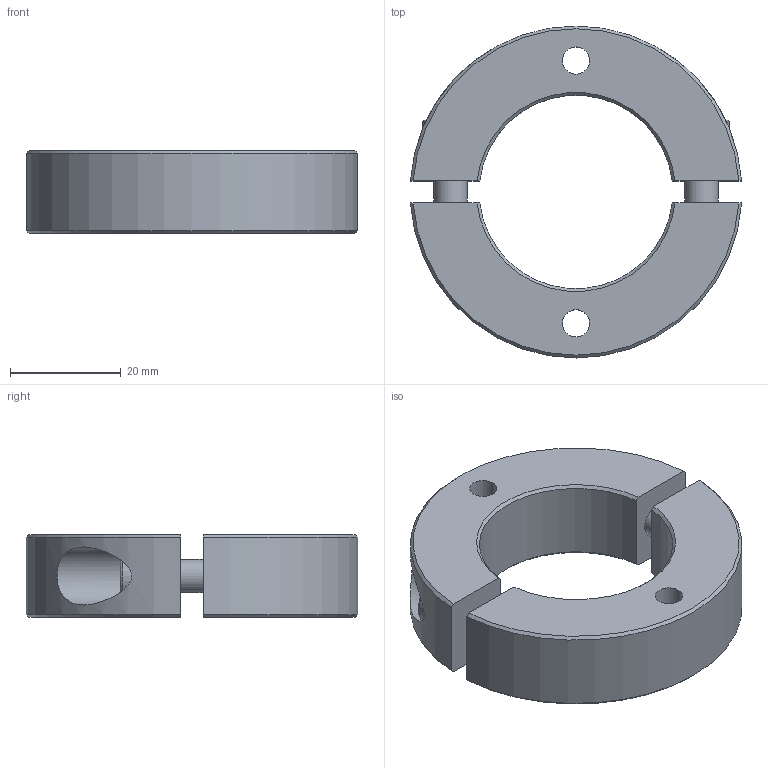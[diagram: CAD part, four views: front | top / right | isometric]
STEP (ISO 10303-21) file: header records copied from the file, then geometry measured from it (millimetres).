
FILE_DESCRIPTION( ( 'STEP AP203' ), '1' );
FILE_NAME( 'C:/Temp/Ganter_Step_05_03_2020/data/3_2/gn7072_2/Split Stainless Steel-Set collar GN 7072.2-60-B35-NI-C.stp', '2020-03-13T05:41:10', ( 'License CC BY-ND 4.0' ), ( 'CADENAS' ), ' ', 'PARTsolutions', ' ' );
FILE_SCHEMA( ( 'CONFIG_CONTROL_DESIGN' ) );
Length unit declared in the file: millimetre
Products named in the file (1): _Split Stainless Steel-Set collar GN 7072.2-60-B35-NI-C
Bounding box: 59.87 x 60 x 15 mm (x, y, z)
Volume: 24679.9 mm3; surface area: 10332 mm2
Topology: 1 solids, 1 shells, 52 faces, 123 edges, 83 vertices
Faces by surface type: plane 28, cylinder 14, cone 8, torus 2
Full cylindrical faces by diameter (mm): 4.917 x2, 6 x2, 6.4 x2, 10 x2, 10.5 x2
Entity records: 1633 total; most frequent: CARTESIAN_POINT 448, DIRECTION 230, ORIENTED_EDGE 212, EDGE_CURVE 106, AXIS2_PLACEMENT_3D 89, EDGE_LOOP 80, VERTEX_POINT 78, FACE_OUTER_BOUND 64
